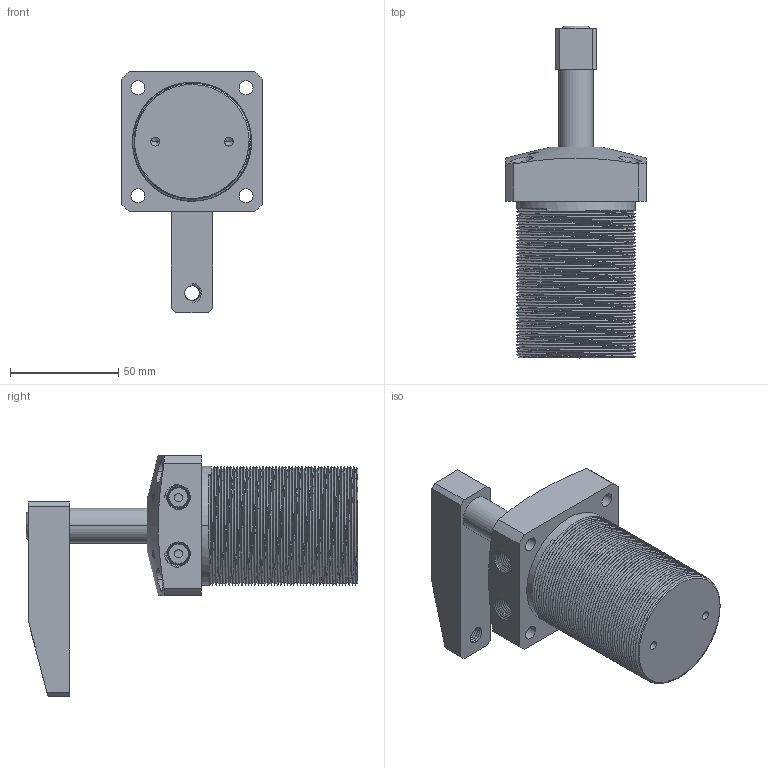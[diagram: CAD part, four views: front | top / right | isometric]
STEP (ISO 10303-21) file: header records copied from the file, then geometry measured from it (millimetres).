
FILE_DESCRIPTION((''),'2;1');
FILE_NAME('NPSU-40_ASM','2010-02-02T',('Administrator'),(''),'PRO/ENGINEER BY PARAMETRIC TECHNOLOGY CORPORATION, 2007170','PRO/ENGINEER BY PARAMETRIC TECHNOLOGY CORPORATION, 2007170','');
FILE_SCHEMA(('CONFIG_CONTROL_DESIGN'));
Length unit declared in the file: millimetre
Products named in the file (5): NPSU-40-90-03; NPSU-40-90-01; NPSU-40-90-02; M8X20; NPSU-40_ASM
Assembly tree (4 placements, depth 2):
  NPSU-40_ASM
    NPSU-40-90-03
    NPSU-40-90-01
    NPSU-40-90-02
    M8X20
Bounding box: 65 x 153.5 x 111.5 mm (x, y, z)
Volume: 237485.5 mm3; surface area: 70499 mm2
Topology: 4 solids, 4 shells, 441 faces, 1164 edges, 749 vertices
Faces by surface type: cylinder 239, bspline 76, plane 64, cone 54, torus 8
Entity records: 37638 total; most frequent: CARTESIAN_POINT 27879, ORIENTED_EDGE 2312, DIRECTION 1475, EDGE_CURVE 1156, VERTEX_POINT 749, B_SPLINE_CURVE_WITH_KNOTS 572, AXIS2_PLACEMENT_3D 517, EDGE_LOOP 479
